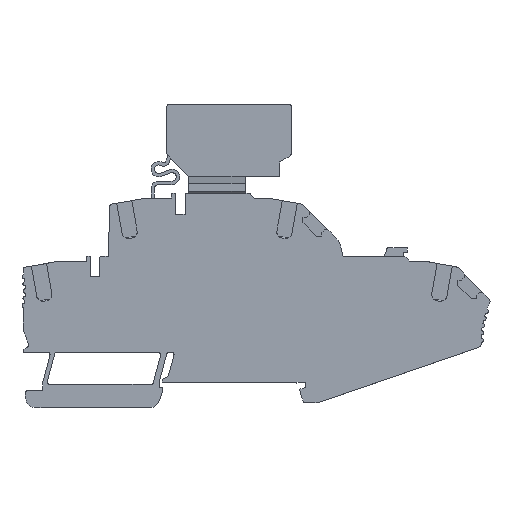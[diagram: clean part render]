
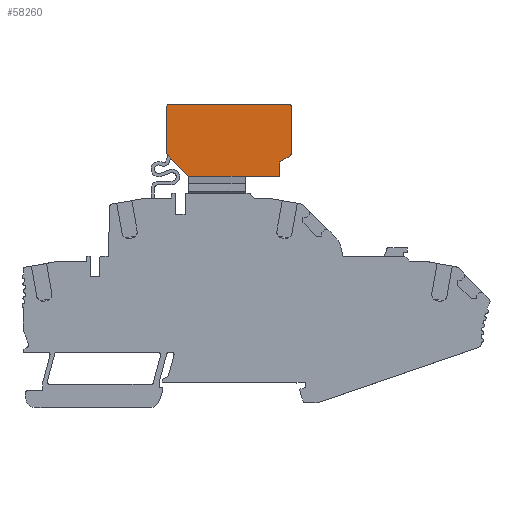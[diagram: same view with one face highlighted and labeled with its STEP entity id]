
A CAD part, top view. The second image highlights one B-rep face of the part: STEP entity #58260.
In plain terms, the highlighted planar face has unit normal (0, 0, 1).
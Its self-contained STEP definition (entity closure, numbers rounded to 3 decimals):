
#1000=CARTESIAN_POINT('',(22.95,67.5,
0.7));
#1010=VERTEX_POINT('',#1000);
#1170=CARTESIAN_POINT('',(23.45,67.,
0.7));
#1180=VERTEX_POINT('',#1170);
#1210=CARTESIAN_POINT('',(22.95,67.,
0.7));
#1220=DIRECTION('',(0.,0.,1.));
#1230=DIRECTION('',(1.,0.,0.));
#1240=AXIS2_PLACEMENT_3D('',#1210,#1220,#1230);
#1250=CIRCLE('',#1240,0.5);
#1260=EDGE_CURVE('',#1180,#1010,#1250,.T.);
#28130=CARTESIAN_POINT('',(-5.85,55.907,
0.7));
#28140=VERTEX_POINT('',#28130);
#28170=CARTESIAN_POINT('',(-5.35,55.907,
0.7));
#28180=DIRECTION('',(0.,0.,1.));
#28190=DIRECTION('',(1.,0.,0.));
#28200=AXIS2_PLACEMENT_3D('',#28170,#28180,#28190);
#28210=CIRCLE('',#28200,0.5);
#28220=CARTESIAN_POINT('',(-5.704,55.554,
0.7));
#28230=VERTEX_POINT('',#28220);
#28240=EDGE_CURVE('',#28140,#28230,#28210,.T.);
#33490=CARTESIAN_POINT('',(20.7,53.9,
0.7));
#33500=VERTEX_POINT('',#33490);
#33530=CARTESIAN_POINT('',(-5.65,38.687,
0.7));
#33540=DIRECTION('',(-0.866,-0.5,0.));
#33550=VECTOR('',#33540,1.);
#33560=LINE('',#33530,#33550);
#33570=CARTESIAN_POINT('',(22.95,55.199,
0.7));
#33580=VERTEX_POINT('',#33570);
#33590=EDGE_CURVE('',#33580,#33500,#33560,.T.);
#35800=CARTESIAN_POINT('',(20.7,50.5,
0.7));
#35810=VERTEX_POINT('',#35800);
#35840=CARTESIAN_POINT('',(20.7,20.8,
0.7));
#35850=DIRECTION('',(0.,-1.,0.));
#35860=VECTOR('',#35850,1.);
#35870=LINE('',#35840,#35860);
#35880=EDGE_CURVE('',#33500,#35810,#35870,.T.);
#42970=CARTESIAN_POINT('',(9.3,50.5,
0.7));
#42980=DIRECTION('',(1.,-0.,0.));
#42990=VECTOR('',#42980,1.);
#43000=LINE('',#42970,#42990);
#43010=CARTESIAN_POINT('',(-0.65,50.5,
0.7));
#43020=VERTEX_POINT('',#43010);
#43030=CARTESIAN_POINT('',(12.55,50.5,
0.7));
#43040=VERTEX_POINT('',#43030);
#43050=EDGE_CURVE('',#43020,#43040,#43000,.T.);
#56300=CARTESIAN_POINT('',(-5.35,67.5,
0.7));
#56310=VERTEX_POINT('',#56300);
#56340=CARTESIAN_POINT('',(-5.35,67.,
0.7));
#56350=DIRECTION('',(-0.,0.,-1.));
#56360=DIRECTION('',(-1.,0.,0.));
#56370=AXIS2_PLACEMENT_3D('',#56340,#56350,#56360);
#56380=CIRCLE('',#56370,0.5);
#56390=CARTESIAN_POINT('',(-5.85,67.,
0.7));
#56400=VERTEX_POINT('',#56390);
#56410=EDGE_CURVE('',#56400,#56310,#56380,.T.);
#57740=CARTESIAN_POINT('',(-5.85,53.2,
0.7));
#57750=DIRECTION('',(0.,0.,-1.));
#57760=DIRECTION('',(0.,1.,0.));
#57770=AXIS2_PLACEMENT_3D('',#57740,#57750,#57760);
#57780=PLANE('',#57770);
#57790=ORIENTED_EDGE('',*,*,#28240,.T.);
#57800=CARTESIAN_POINT('',(-5.85,20.8,
0.7));
#57810=DIRECTION('',(0.,1.,0.));
#57820=VECTOR('',#57810,1.);
#57830=LINE('',#57800,#57820);
#57840=EDGE_CURVE('',#28140,#56400,#57830,.T.);
#57850=ORIENTED_EDGE('',*,*,#57840,.F.);
#57860=ORIENTED_EDGE('',*,*,#56410,.F.);
#57870=CARTESIAN_POINT('',(9.3,67.5,
0.7));
#57880=DIRECTION('',(1.,0.,0.));
#57890=VECTOR('',#57880,1.);
#57900=LINE('',#57870,#57890);
#57910=EDGE_CURVE('',#56310,#1010,#57900,.T.);
#57920=ORIENTED_EDGE('',*,*,#57910,.F.);
#57930=ORIENTED_EDGE('',*,*,#1260,.T.);
#57940=CARTESIAN_POINT('',(23.45,20.8,
0.7));
#57950=DIRECTION('',(0.,-1.,0.));
#57960=VECTOR('',#57950,1.);
#57970=LINE('',#57940,#57960);
#57980=CARTESIAN_POINT('',(23.45,56.065,
0.7));
#57990=VERTEX_POINT('',#57980);
#58000=EDGE_CURVE('',#1180,#57990,#57970,.T.);
#58010=ORIENTED_EDGE('',*,*,#58000,.F.);
#58020=CARTESIAN_POINT('',(22.45,56.065,
0.7));
#58030=DIRECTION('',(-0.,0.,-1.));
#58040=DIRECTION('',(-1.,0.,0.));
#58050=AXIS2_PLACEMENT_3D('',#58020,#58030,#58040);
#58060=CIRCLE('',#58050,1.);
#58070=EDGE_CURVE('',#57990,#33580,#58060,.T.);
#58080=ORIENTED_EDGE('',*,*,#58070,.F.);
#58090=ORIENTED_EDGE('',*,*,#33590,.F.);
#58100=ORIENTED_EDGE('',*,*,#35880,.F.);
#58110=CARTESIAN_POINT('',(-5.65,50.5,
0.7));
#58120=DIRECTION('',(-1.,-0.,0.));
#58130=VECTOR('',#58120,1.);
#58140=LINE('',#58110,#58130);
#58150=EDGE_CURVE('',#35810,#43040,#58140,.T.);
#58160=ORIENTED_EDGE('',*,*,#58150,.F.);
#58170=ORIENTED_EDGE('',*,*,#43050,.T.);
#58180=CARTESIAN_POINT('',(29.05,20.8,
0.7));
#58190=DIRECTION('',(-0.707,0.707,
0.));
#58200=VECTOR('',#58190,1.);
#58210=LINE('',#58180,#58200);
#58220=EDGE_CURVE('',#43020,#28230,#58210,.T.);
#58230=ORIENTED_EDGE('',*,*,#58220,.F.);
#58240=EDGE_LOOP('',(#58230,#58170,#58160,#58100,#58090,#58080,#58010,
#57930,#57920,#57860,#57850,#57790));
#58250=FACE_OUTER_BOUND('',#58240,.T.);
#58260=ADVANCED_FACE('',(#58250),#57780,.F.);
